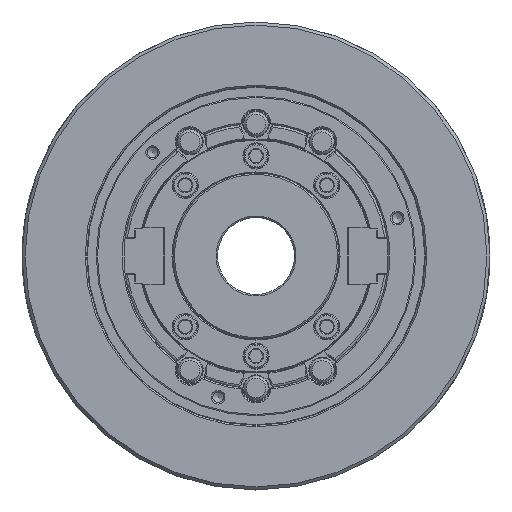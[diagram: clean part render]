
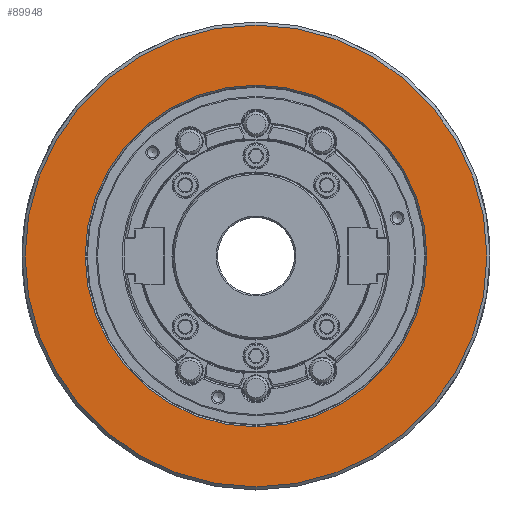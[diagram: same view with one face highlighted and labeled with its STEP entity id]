
A CAD part, left-side view. The second image highlights one B-rep face of the part: STEP entity #89948.
In plain terms, the highlighted planar face has unit normal (-1, 0, 0).
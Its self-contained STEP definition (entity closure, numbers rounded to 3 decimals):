
#729 = EDGE_CURVE ( 'NONE', #83725, #83725, #69559, .T. ) ;
#2472 = DIRECTION ( 'NONE',  ( -1., 0., 0. ) ) ;
#2876 = CARTESIAN_POINT ( 'NONE',  ( -110., 150., 0. ) ) ;
#2985 = EDGE_LOOP ( 'NONE', ( #7324 ) ) ;
#4159 = EDGE_LOOP ( 'NONE', ( #25949 ) ) ;
#7324 = ORIENTED_EDGE ( 'NONE', *, *, #729, .F. ) ;
#7361 = AXIS2_PLACEMENT_3D ( 'NONE', #2876, #35490, #68166 ) ;
#7420 = AXIS2_PLACEMENT_3D ( 'NONE', #75668, #67645, #51043 ) ;
#19577 = CARTESIAN_POINT ( 'NONE',  ( -110., 0., 0. ) ) ;
#25949 = ORIENTED_EDGE ( 'NONE', *, *, #89916, .T. ) ;
#27872 = CIRCLE ( 'NONE', #7420, 150. ) ;
#28002 = FACE_BOUND ( 'NONE', #2985, .T. ) ;
#35087 = DIRECTION ( 'NONE',  ( 0., 0., 1. ) ) ;
#35490 = DIRECTION ( 'NONE',  ( 1., 0., 0. ) ) ;
#38736 = AXIS2_PLACEMENT_3D ( 'NONE', #19577, #2472, #35087 ) ;
#51043 = DIRECTION ( 'NONE',  ( 0., 0., 1. ) ) ;
#55667 = CARTESIAN_POINT ( 'NONE',  ( -110., 0., 150. ) ) ;
#56220 = VERTEX_POINT ( 'NONE', #55667 ) ;
#67645 = DIRECTION ( 'NONE',  ( -1., 0., 0. ) ) ;
#68166 = DIRECTION ( 'NONE',  ( 0., 0., -1. ) ) ;
#69559 = CIRCLE ( 'NONE', #38736, 111. ) ;
#74634 = CARTESIAN_POINT ( 'NONE',  ( -110., 0., 111. ) ) ;
#75668 = CARTESIAN_POINT ( 'NONE',  ( -110., 0., 0. ) ) ;
#76193 = FACE_OUTER_BOUND ( 'NONE', #4159, .T. ) ;
#83725 = VERTEX_POINT ( 'NONE', #74634 ) ;
#84757 = PLANE ( 'NONE',  #7361 ) ;
#89916 = EDGE_CURVE ( 'NONE', #56220, #56220, #27872, .T. ) ;
#89948 = ADVANCED_FACE ( 'NONE', ( #28002, #76193 ), #84757, .F. ) ;
